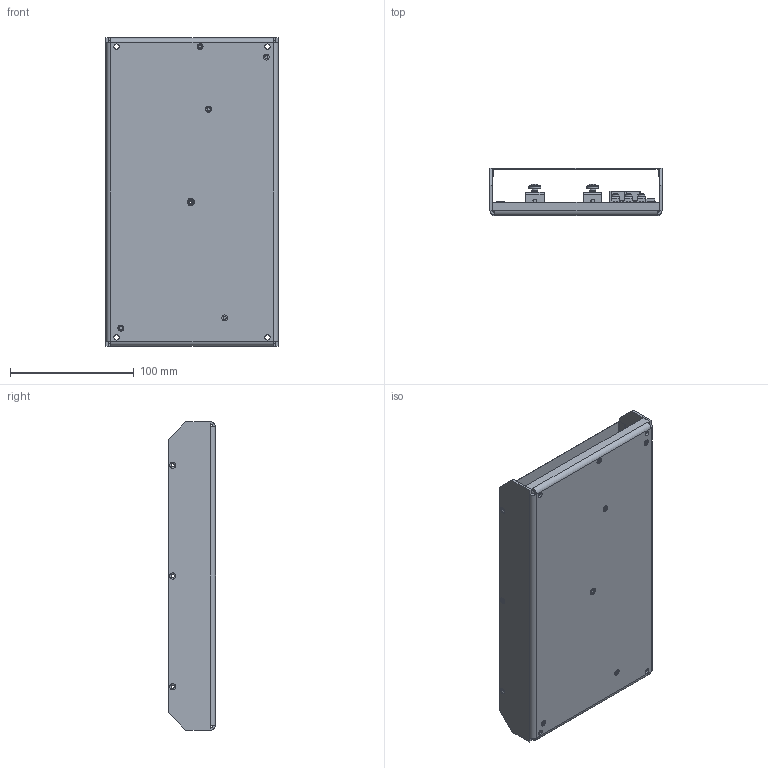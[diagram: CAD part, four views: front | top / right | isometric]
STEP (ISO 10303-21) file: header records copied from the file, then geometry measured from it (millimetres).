
FILE_DESCRIPTION(('STEP AP214'), '1');
FILE_NAME('JETBA1500-S_screw_termination', '', ('UNSPECIFIED'), ('UNSPECIFIED'), 'ASCON STEP Converter 1.3', 'ASCON Math Kernel', '');
FILE_SCHEMA(('AUTOMOTIVE_DESIGN { 1 0 10303 214 3 1 1}'));
Length unit declared in the file: millimetre
Products named in the file (1): JETBA1500-S_screw_termination
Bounding box: 139 x 38.15 x 249 mm (x, y, z)
Volume: 159790.6 mm3; surface area: 235828.3 mm2
Topology: 5 solids, 5 shells, 2033 faces, 5109 edges, 3230 vertices
Faces by surface type: plane 1117, cylinder 767, cone 101, torus 43, sphere 5
Full cylindrical faces by diameter (mm): 0.2 x2, 0.3 x6, 0.5 x16, 2.5 x9, 2.7 x6, 3 x15, 3.8 x1, 3.88 x5, 4 x4, 4.093 x10, 4.2 x17, 4.22 x6, 4.3 x4, 4.4 x4, 4.8 x5, 5 x12, 5.6 x3, 6.3 x2, 6.35 x8, 8 x2, 9.5 x2
Entity records: 83320 total; most frequent: CARTESIAN_POINT 18284, DIRECTION 10178, ORIENTED_EDGE 9754, EDGE_CURVE 4877, AXIS2_PLACEMENT_3D 3561, VERTEX_POINT 3225, LINE 3056, VECTOR 3056
